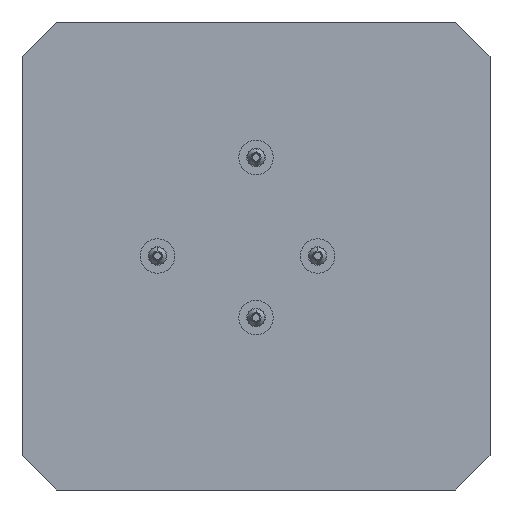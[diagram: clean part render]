
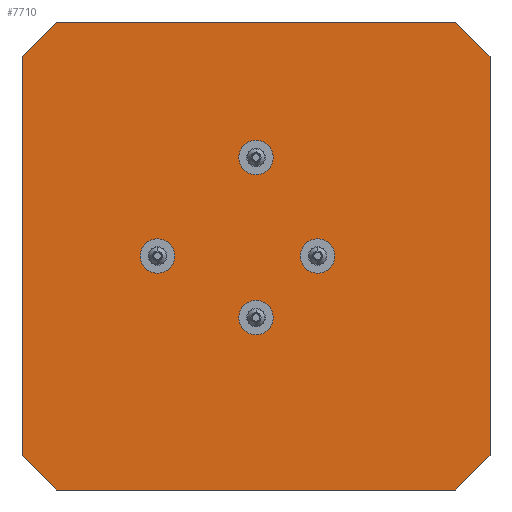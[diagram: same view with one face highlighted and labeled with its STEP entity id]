
A CAD part, front view. The second image highlights one B-rep face of the part: STEP entity #7710.
In plain terms, the highlighted planar face has unit normal (0, -1, 0).
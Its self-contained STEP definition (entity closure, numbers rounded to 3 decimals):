
#1560=DIRECTION('',(-0.707,0.,-0.707));
#1561=VECTOR('',#1560,3.96);
#1562=CARTESIAN_POINT('',(19.,0.,-16.2));
#1563=LINE('',#1562,#1561);
#1564=DIRECTION('',(-0.707,0.,0.707));
#1565=VECTOR('',#1564,3.96);
#1566=CARTESIAN_POINT('',(-16.2,0.,-19.));
#1567=LINE('',#1566,#1565);
#1568=DIRECTION('',(0.707,0.,0.707));
#1569=VECTOR('',#1568,3.96);
#1570=CARTESIAN_POINT('',(-19.,0.,16.2));
#1571=LINE('',#1570,#1569);
#1572=DIRECTION('',(0.707,0.,-0.707));
#1573=VECTOR('',#1572,3.96);
#1574=CARTESIAN_POINT('',(16.2,0.,19.));
#1575=LINE('',#1574,#1573);
#1576=CARTESIAN_POINT('',(0.,0.,-5.));
#1577=DIRECTION('',(0.,-1.,0.));
#1578=DIRECTION('',(-1.,0.,0.));
#1579=AXIS2_PLACEMENT_3D('',#1576,#1577,#1578);
#1581=CARTESIAN_POINT('',(0.,0.,-5.));
#1582=DIRECTION('',(0.,-1.,0.));
#1583=DIRECTION('',(1.,0.,0.));
#1584=AXIS2_PLACEMENT_3D('',#1581,#1582,#1583);
#1586=CARTESIAN_POINT('',(5.,0.,0.));
#1587=DIRECTION('',(0.,-1.,0.));
#1588=DIRECTION('',(-1.,0.,0.));
#1589=AXIS2_PLACEMENT_3D('',#1586,#1587,#1588);
#1591=CARTESIAN_POINT('',(5.,0.,0.));
#1592=DIRECTION('',(0.,-1.,0.));
#1593=DIRECTION('',(1.,0.,0.));
#1594=AXIS2_PLACEMENT_3D('',#1591,#1592,#1593);
#1596=CARTESIAN_POINT('',(0.,0.,8.));
#1597=DIRECTION('',(0.,-1.,0.));
#1598=DIRECTION('',(-1.,0.,0.));
#1599=AXIS2_PLACEMENT_3D('',#1596,#1597,#1598);
#1601=CARTESIAN_POINT('',(0.,0.,8.));
#1602=DIRECTION('',(0.,-1.,0.));
#1603=DIRECTION('',(1.,0.,0.));
#1604=AXIS2_PLACEMENT_3D('',#1601,#1602,#1603);
#1606=CARTESIAN_POINT('',(-8.,0.,0.));
#1607=DIRECTION('',(0.,-1.,0.));
#1608=DIRECTION('',(-1.,0.,0.));
#1609=AXIS2_PLACEMENT_3D('',#1606,#1607,#1608);
#1611=CARTESIAN_POINT('',(-8.,0.,0.));
#1612=DIRECTION('',(0.,-1.,0.));
#1613=DIRECTION('',(1.,0.,0.));
#1614=AXIS2_PLACEMENT_3D('',#1611,#1612,#1613);
#1624=DIRECTION('',(1.,0.,0.));
#1625=VECTOR('',#1624,32.4);
#1626=CARTESIAN_POINT('',(-16.2,0.,-19.));
#1627=LINE('',#1626,#1625);
#1636=DIRECTION('',(0.,0.,-1.));
#1637=VECTOR('',#1636,32.4);
#1638=CARTESIAN_POINT('',(-19.,0.,16.2));
#1639=LINE('',#1638,#1637);
#1648=DIRECTION('',(-1.,0.,0.));
#1649=VECTOR('',#1648,32.4);
#1650=CARTESIAN_POINT('',(16.2,0.,19.));
#1651=LINE('',#1650,#1649);
#1660=DIRECTION('',(0.,0.,1.));
#1661=VECTOR('',#1660,32.4);
#1662=CARTESIAN_POINT('',(19.,0.,-16.2));
#1663=LINE('',#1662,#1661);
#5515=CARTESIAN_POINT('',(19.,0.,-16.2));
#5516=CARTESIAN_POINT('',(16.2,0.,-19.));
#5517=VERTEX_POINT('',#5515);
#5518=VERTEX_POINT('',#5516);
#5519=CARTESIAN_POINT('',(-16.2,0.,-19.));
#5520=VERTEX_POINT('',#5519);
#5521=CARTESIAN_POINT('',(-19.,0.,-16.2));
#5522=VERTEX_POINT('',#5521);
#5523=CARTESIAN_POINT('',(-19.,0.,16.2));
#5524=VERTEX_POINT('',#5523);
#5525=CARTESIAN_POINT('',(-16.2,0.,19.));
#5526=VERTEX_POINT('',#5525);
#5527=CARTESIAN_POINT('',(16.2,0.,19.));
#5528=VERTEX_POINT('',#5527);
#5529=CARTESIAN_POINT('',(19.,0.,16.2));
#5530=VERTEX_POINT('',#5529);
#5531=CARTESIAN_POINT('',(-1.4,0.,-5.));
#5532=CARTESIAN_POINT('',(1.4,0.,-5.));
#5533=VERTEX_POINT('',#5531);
#5534=VERTEX_POINT('',#5532);
#5535=CARTESIAN_POINT('',(3.6,0.,0.));
#5536=CARTESIAN_POINT('',(6.4,0.,0.));
#5537=VERTEX_POINT('',#5535);
#5538=VERTEX_POINT('',#5536);
#5539=CARTESIAN_POINT('',(-1.4,0.,8.));
#5540=CARTESIAN_POINT('',(1.4,0.,8.));
#5541=VERTEX_POINT('',#5539);
#5542=VERTEX_POINT('',#5540);
#5543=CARTESIAN_POINT('',(-9.4,0.,0.));
#5544=CARTESIAN_POINT('',(-6.6,0.,0.));
#5545=VERTEX_POINT('',#5543);
#5546=VERTEX_POINT('',#5544);
#7664=CARTESIAN_POINT('',(0.,0.,0.));
#7665=DIRECTION('',(0.,1.,0.));
#7666=DIRECTION('',(1.,0.,0.));
#7667=AXIS2_PLACEMENT_3D('',#7664,#7665,#7666);
#7668=PLANE('',#7667);
#7669=ORIENTED_EDGE('',*,*,#7654,.T.);
#7671=ORIENTED_EDGE('',*,*,#7670,.F.);
#7673=ORIENTED_EDGE('',*,*,#7672,.T.);
#7675=ORIENTED_EDGE('',*,*,#7674,.F.);
#7677=ORIENTED_EDGE('',*,*,#7676,.T.);
#7679=ORIENTED_EDGE('',*,*,#7678,.F.);
#7681=ORIENTED_EDGE('',*,*,#7680,.T.);
#7683=ORIENTED_EDGE('',*,*,#7682,.F.);
#7684=EDGE_LOOP('',(#7669,#7671,#7673,#7675,#7677,#7679,#7681,#7683));
#7685=FACE_OUTER_BOUND('',#7684,.F.);
#7687=ORIENTED_EDGE('',*,*,#7686,.T.);
#7689=ORIENTED_EDGE('',*,*,#7688,.T.);
#7690=EDGE_LOOP('',(#7687,#7689));
#7691=FACE_BOUND('',#7690,.F.);
#7693=ORIENTED_EDGE('',*,*,#7692,.T.);
#7695=ORIENTED_EDGE('',*,*,#7694,.T.);
#7696=EDGE_LOOP('',(#7693,#7695));
#7697=FACE_BOUND('',#7696,.F.);
#7699=ORIENTED_EDGE('',*,*,#7698,.T.);
#7701=ORIENTED_EDGE('',*,*,#7700,.T.);
#7702=EDGE_LOOP('',(#7699,#7701));
#7703=FACE_BOUND('',#7702,.F.);
#7705=ORIENTED_EDGE('',*,*,#7704,.T.);
#7707=ORIENTED_EDGE('',*,*,#7706,.T.);
#7708=EDGE_LOOP('',(#7705,#7707));
#7709=FACE_BOUND('',#7708,.F.);
#7710=ADVANCED_FACE('',(#7685,#7691,#7697,#7703,#7709),#7668,.F.);
#1580=CIRCLE('',#1579,1.4);
#1585=CIRCLE('',#1584,1.4);
#1590=CIRCLE('',#1589,1.4);
#1595=CIRCLE('',#1594,1.4);
#1600=CIRCLE('',#1599,1.4);
#1605=CIRCLE('',#1604,1.4);
#1610=CIRCLE('',#1609,1.4);
#1615=CIRCLE('',#1614,1.4);
#7654=EDGE_CURVE('',#5517,#5518,#1563,.T.);
#7670=EDGE_CURVE('',#5520,#5518,#1627,.T.);
#7672=EDGE_CURVE('',#5520,#5522,#1567,.T.);
#7674=EDGE_CURVE('',#5524,#5522,#1639,.T.);
#7676=EDGE_CURVE('',#5524,#5526,#1571,.T.);
#7678=EDGE_CURVE('',#5528,#5526,#1651,.T.);
#7680=EDGE_CURVE('',#5528,#5530,#1575,.T.);
#7682=EDGE_CURVE('',#5517,#5530,#1663,.T.);
#7686=EDGE_CURVE('',#5533,#5534,#1580,.T.);
#7688=EDGE_CURVE('',#5534,#5533,#1585,.T.);
#7692=EDGE_CURVE('',#5537,#5538,#1590,.T.);
#7694=EDGE_CURVE('',#5538,#5537,#1595,.T.);
#7698=EDGE_CURVE('',#5541,#5542,#1600,.T.);
#7700=EDGE_CURVE('',#5542,#5541,#1605,.T.);
#7704=EDGE_CURVE('',#5545,#5546,#1610,.T.);
#7706=EDGE_CURVE('',#5546,#5545,#1615,.T.);
